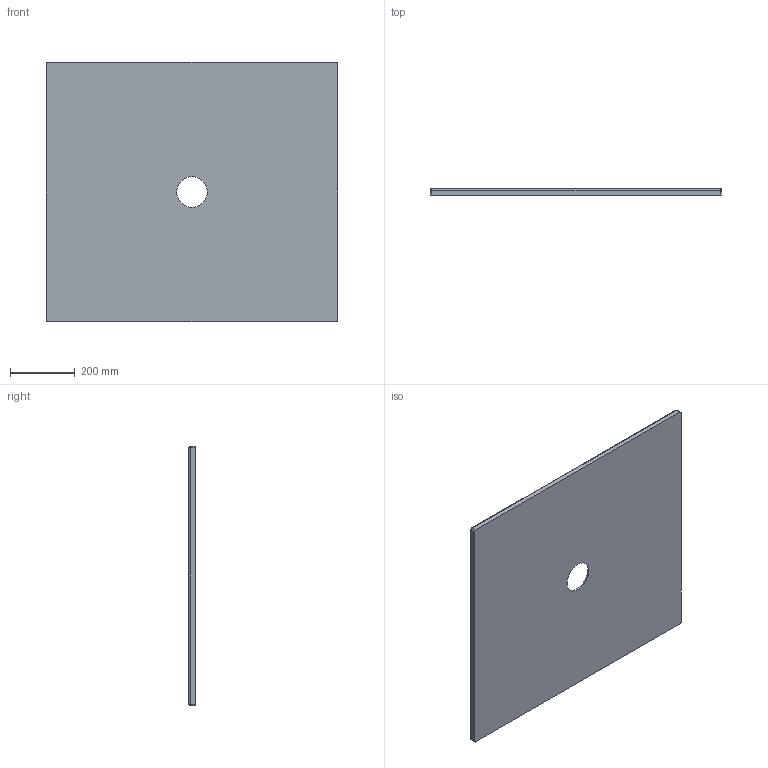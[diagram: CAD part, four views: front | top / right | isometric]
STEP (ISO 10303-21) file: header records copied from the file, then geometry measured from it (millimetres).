
FILE_DESCRIPTION (( 'STEP AP203' ), '1' );
FILE_NAME ('SDPD09008020.STEP', '2023-03-31T10:43:54', ( '' ), ( '' ), 'SwSTEP 2.0', 'SolidWorks 2023', '' );
FILE_SCHEMA (( 'CONFIG_CONTROL_DESIGN' ));
Length unit declared in the file: millimetre
Products named in the file (1): SDPD09008020
Bounding box: 900 x 20 x 800 mm (x, y, z)
Volume: 11925031.6 mm3; surface area: 1476400.3 mm2
Topology: 1 solids, 1 shells, 26 faces, 53 edges, 31 vertices
Faces by surface type: cylinder 9, plane 8, sphere 4, bspline 2, torus 2, cone 1
Full cylindrical faces by diameter (mm): 95 x1
Entity records: 3073 total; most frequent: CARTESIAN_POINT 2492, DIRECTION 108, ORIENTED_EDGE 90, EDGE_CURVE 45, AXIS2_PLACEMENT_3D 44, EDGE_LOOP 36, FACE_OUTER_BOUND 31, VERTEX_POINT 29
